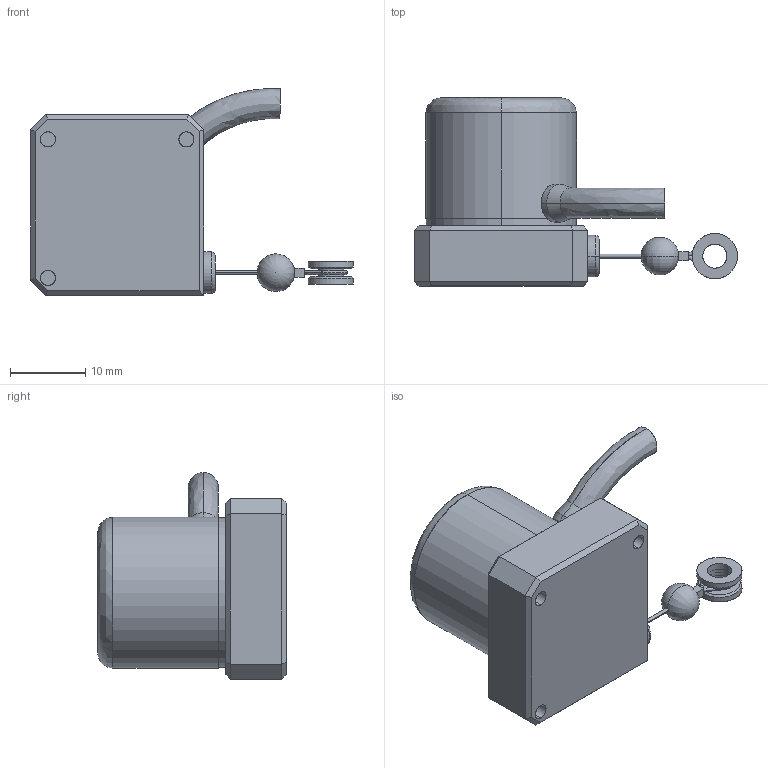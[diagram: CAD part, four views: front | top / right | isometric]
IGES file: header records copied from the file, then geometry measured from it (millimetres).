
Start section: SolidWorks IGES file using analytic representation for surfaces
Bounding box: 42.86 x 25 x 27.43 mm (x, y, z)
Surface area: 3468.3 mm2 (no closed solid volume)
Topology: 0 solids, 0 shells, 96 faces, 1142 edges, 1141 vertices
Faces by surface type: bspline 56, revolution 40
